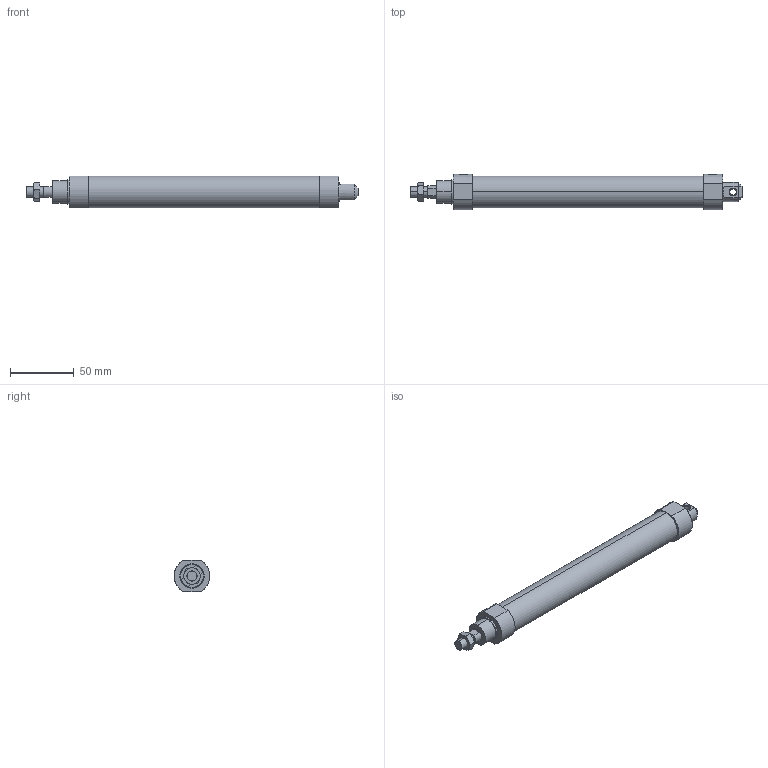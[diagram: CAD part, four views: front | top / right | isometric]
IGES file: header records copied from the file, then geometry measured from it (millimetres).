
Start section: SolidWorks IGES file using analytic representation for surfaces
Global section: file name: C:\Users\Toshiba\Desktop\J#2-20-150-C.IGS; native system: SolidWorks 2014; preprocessor: SolidWorks 2014; author: Toshiba; date: 160308.150555; units: millimetre
Bounding box: 261 x 28 x 25 mm (x, y, z)
Surface area: 21585.7 mm2 (no closed solid volume)
Topology: 0 solids, 0 shells, 78 faces, 1284 edges, 1284 vertices
Faces by surface type: bspline 48, revolution 30
